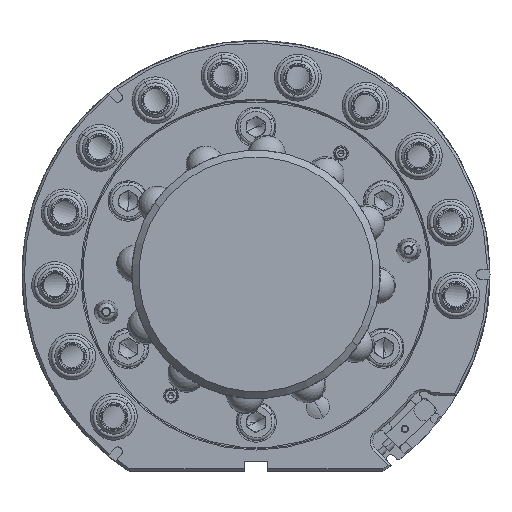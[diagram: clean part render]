
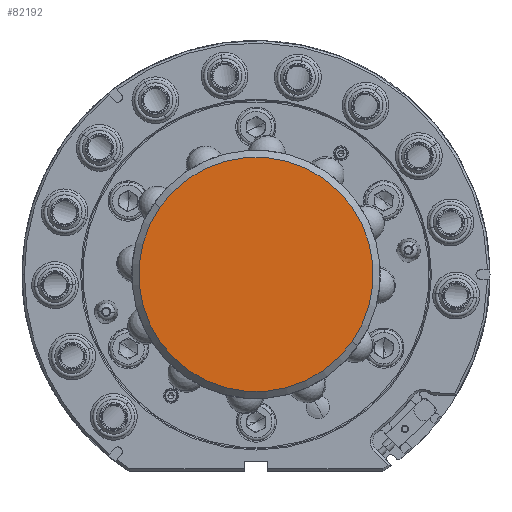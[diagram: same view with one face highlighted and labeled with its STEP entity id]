
A CAD part, top view. The second image highlights one B-rep face of the part: STEP entity #82192.
In plain terms, the highlighted planar face has unit normal (0, 0, 1).
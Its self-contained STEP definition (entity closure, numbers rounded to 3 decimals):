
#12238 = AXIS2_PLACEMENT_3D ( 'NONE', #36686, #63855, #57191 ) ;
#14996 = CARTESIAN_POINT ( 'NONE',  ( 36.043, -25.237, 0. ) ) ;
#15429 = FACE_OUTER_BOUND ( 'NONE', #19607, .T. ) ;
#19607 = EDGE_LOOP ( 'NONE', ( #83641, #40795 ) ) ;
#24765 = CARTESIAN_POINT ( 'NONE',  ( 0., 0., 0. ) ) ;
#29228 = AXIS2_PLACEMENT_3D ( 'NONE', #24765, #73739, #74196 ) ;
#32110 = CARTESIAN_POINT ( 'NONE',  ( 41.04, -28.736, 0. ) ) ;
#34957 = CIRCLE ( 'NONE', #29228, 50.1 ) ;
#36686 = CARTESIAN_POINT ( 'NONE',  ( 0., 0., 0. ) ) ;
#40795 = ORIENTED_EDGE ( 'NONE', *, *, #49128, .T. ) ;
#47275 = VERTEX_POINT ( 'NONE', #32110 ) ;
#48028 = CARTESIAN_POINT ( 'NONE',  ( -41.04, 28.736, 0. ) ) ;
#49128 = EDGE_CURVE ( 'NONE', #72576, #47275, #57812, .T. ) ;
#49326 = DIRECTION ( 'NONE',  ( -0.819, 0.574, 0. ) ) ;
#57191 = DIRECTION ( 'NONE',  ( -0.819, 0.574, 0. ) ) ;
#57812 = CIRCLE ( 'NONE', #12238, 50.1 ) ;
#63855 = DIRECTION ( 'NONE',  ( 0., 0., 1. ) ) ;
#68741 = AXIS2_PLACEMENT_3D ( 'NONE', #14996, #70687, #49326 ) ;
#69483 = EDGE_CURVE ( 'NONE', #47275, #72576, #34957, .T. ) ;
#70687 = DIRECTION ( 'NONE',  ( 0., 0., 1. ) ) ;
#72576 = VERTEX_POINT ( 'NONE', #48028 ) ;
#73739 = DIRECTION ( 'NONE',  ( 0., 0., 1. ) ) ;
#74196 = DIRECTION ( 'NONE',  ( -0.819, 0.574, 0. ) ) ;
#82192 = ADVANCED_FACE ( 'NONE', ( #15429 ), #83640, .T. ) ;
#83640 = PLANE ( 'NONE',  #68741 ) ;
#83641 = ORIENTED_EDGE ( 'NONE', *, *, #69483, .T. ) ;
